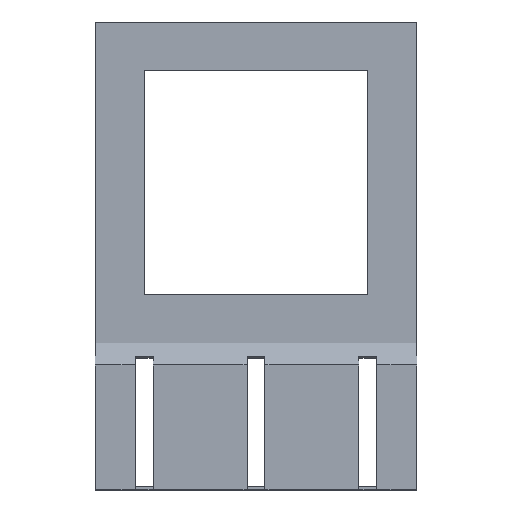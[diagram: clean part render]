
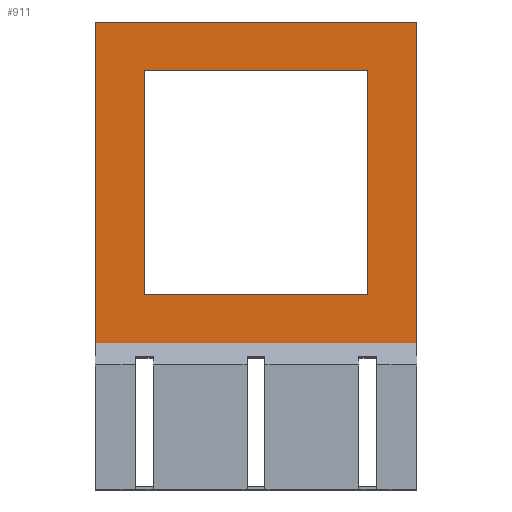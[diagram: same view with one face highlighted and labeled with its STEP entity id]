
A CAD part, top view. The second image highlights one B-rep face of the part: STEP entity #911.
In plain terms, the highlighted planar face has unit normal (0, 0, 1).
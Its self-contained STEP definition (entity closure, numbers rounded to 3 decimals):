
#385 = VERTEX_POINT('',#386);
#386 = CARTESIAN_POINT('',(49.25,-98.5,1.));
#392 = EDGE_CURVE('',#393,#385,#395,.T.);
#393 = VERTEX_POINT('',#394);
#394 = CARTESIAN_POINT('',(-49.25,-98.5,1.));
#395 = LINE('',#396,#397);
#396 = CARTESIAN_POINT('',(49.25,-98.5,1.));
#397 = VECTOR('',#398,1.);
#398 = DIRECTION('',(1.,0.,0.));
#684 = VERTEX_POINT('',#685);
#685 = CARTESIAN_POINT('',(-49.25,0.,1.));
#693 = EDGE_CURVE('',#694,#684,#696,.T.);
#694 = VERTEX_POINT('',#695);
#695 = CARTESIAN_POINT('',(49.25,0.,1.));
#696 = LINE('',#697,#698);
#697 = CARTESIAN_POINT('',(49.25,0.,1.));
#698 = VECTOR('',#699,1.);
#699 = DIRECTION('',(-1.,-0.,-0.));
#726 = VERTEX_POINT('',#727);
#727 = CARTESIAN_POINT('',(-34.25,-83.5,1.));
#733 = EDGE_CURVE('',#726,#734,#736,.T.);
#734 = VERTEX_POINT('',#735);
#735 = CARTESIAN_POINT('',(34.25,-83.5,1.));
#736 = LINE('',#737,#738);
#737 = CARTESIAN_POINT('',(-34.25,-83.5,1.));
#738 = VECTOR('',#739,1.);
#739 = DIRECTION('',(1.,0.,0.));
#766 = VERTEX_POINT('',#767);
#767 = CARTESIAN_POINT('',(-34.25,-15.,1.));
#773 = EDGE_CURVE('',#766,#726,#774,.T.);
#774 = LINE('',#775,#776);
#775 = CARTESIAN_POINT('',(-34.25,-15.,1.));
#776 = VECTOR('',#777,1.);
#777 = DIRECTION('',(0.,-1.,0.));
#797 = VERTEX_POINT('',#798);
#798 = CARTESIAN_POINT('',(34.25,-15.,1.));
#804 = EDGE_CURVE('',#797,#766,#805,.T.);
#805 = LINE('',#806,#807);
#806 = CARTESIAN_POINT('',(-34.25,-15.,1.));
#807 = VECTOR('',#808,1.);
#808 = DIRECTION('',(-1.,0.,-0.));
#826 = EDGE_CURVE('',#734,#797,#827,.T.);
#827 = LINE('',#828,#829);
#828 = CARTESIAN_POINT('',(34.25,-15.,1.));
#829 = VECTOR('',#830,1.);
#830 = DIRECTION('',(0.,1.,-0.));
#892 = VERTEX_POINT('',#893);
#893 = CARTESIAN_POINT('',(-49.25,-98.282,1.));
#899 = EDGE_CURVE('',#684,#892,#900,.T.);
#900 = LINE('',#901,#902);
#901 = CARTESIAN_POINT('',(-49.25,0.,1.));
#902 = VECTOR('',#903,1.);
#903 = DIRECTION('',(0.,-1.,0.));
#911 = ADVANCED_FACE('',(#912,#918),#943,.F.);
#912 = FACE_BOUND('',#913,.T.);
#913 = EDGE_LOOP('',(#914,#915,#916,#917));
#914 = ORIENTED_EDGE('',*,*,#804,.F.);
#915 = ORIENTED_EDGE('',*,*,#826,.F.);
#916 = ORIENTED_EDGE('',*,*,#733,.F.);
#917 = ORIENTED_EDGE('',*,*,#773,.F.);
#918 = FACE_BOUND('',#919,.T.);
#919 = EDGE_LOOP('',(#920,#921,#927,#928,#936,#942));
#920 = ORIENTED_EDGE('',*,*,#899,.T.);
#921 = ORIENTED_EDGE('',*,*,#922,.T.);
#922 = EDGE_CURVE('',#892,#393,#923,.T.);
#923 = LINE('',#924,#925);
#924 = CARTESIAN_POINT('',(-49.25,-98.282,1.));
#925 = VECTOR('',#926,1.);
#926 = DIRECTION('',(0.,-1.,0.));
#927 = ORIENTED_EDGE('',*,*,#392,.T.);
#928 = ORIENTED_EDGE('',*,*,#929,.F.);
#929 = EDGE_CURVE('',#930,#385,#932,.T.);
#930 = VERTEX_POINT('',#931);
#931 = CARTESIAN_POINT('',(49.25,-98.282,1.));
#932 = LINE('',#933,#934);
#933 = CARTESIAN_POINT('',(49.25,0.,1.));
#934 = VECTOR('',#935,1.);
#935 = DIRECTION('',(0.,-1.,0.));
#936 = ORIENTED_EDGE('',*,*,#937,.F.);
#937 = EDGE_CURVE('',#694,#930,#938,.T.);
#938 = LINE('',#939,#940);
#939 = CARTESIAN_POINT('',(49.25,0.,1.));
#940 = VECTOR('',#941,1.);
#941 = DIRECTION('',(0.,-1.,0.));
#942 = ORIENTED_EDGE('',*,*,#693,.T.);
#943 = PLANE('',#944);
#944 = AXIS2_PLACEMENT_3D('',#945,#946,#947);
#945 = CARTESIAN_POINT('',(49.25,0.,1.));
#946 = DIRECTION('',(0.,0.,-1.));
#947 = DIRECTION('',(0.,1.,0.));
